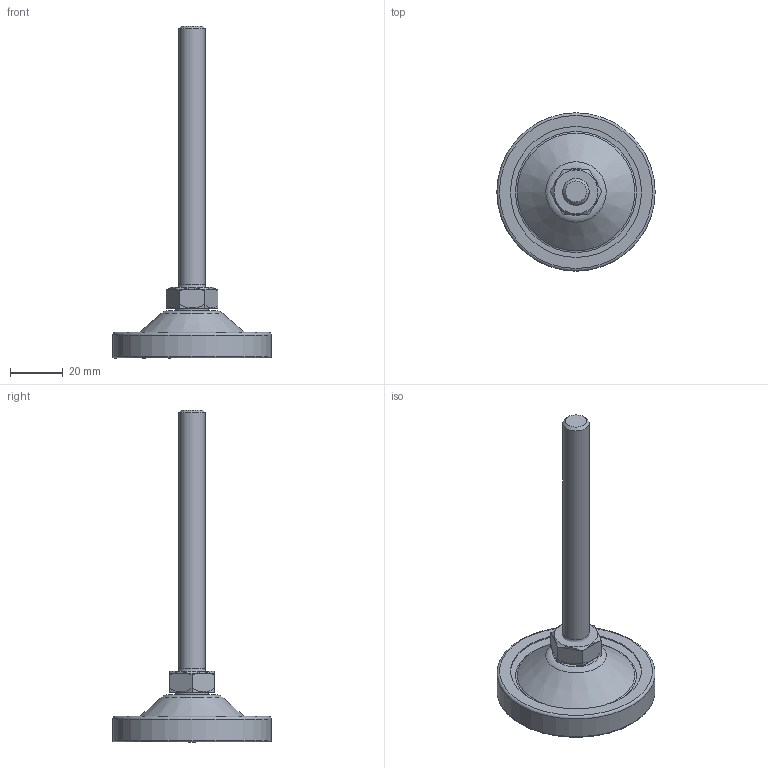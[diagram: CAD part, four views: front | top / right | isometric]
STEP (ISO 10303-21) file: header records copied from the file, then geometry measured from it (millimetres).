
FILE_DESCRIPTION(/* description */ (''),/* implementation_level */ '2;1');
FILE_NAME(/* name */ 'D:\조절자\PFR\PFR-M10-100L.stp',/* time_stamp */ '2016-03-14T15:05:43+09:00',/* author */ ('GS-DT-1-001'),/* organization */ (''),/* preprocessor_version */ 'ST-DEVELOPER v15.6',/* originating_system */ 'Autodesk Inventor LT ',/* authorisation */ '');
FILE_SCHEMA (('AUTOMOTIVE_DESIGN { 1 0 10303 214 3 1 1 }'));
Length unit declared in the file: millimetre
Products named in the file (1): PFR-M10-100L
Bounding box: 60 x 60 x 125.79 mm (x, y, z)
Volume: 34208.4 mm3; surface area: 20713.8 mm2
Topology: 6 solids, 6 shells, 97 faces, 228 edges, 152 vertices
Faces by surface type: plane 45, torus 20, cylinder 19, cone 13
Full cylindrical faces by diameter (mm): 5 x1, 6 x1, 6.2 x1, 6.6 x1, 9 x1, 10 x1, 12.5 x1, 49.6 x1, 54.019 x1, 54.2 x1, 60 x1
Entity records: 2345 total; most frequent: CARTESIAN_POINT 418, DIRECTION 412, ORIENTED_EDGE 312, AXIS2_PLACEMENT_3D 178, EDGE_LOOP 158, EDGE_CURVE 156, VERTEX_POINT 124, FACE_OUTER_BOUND 97
